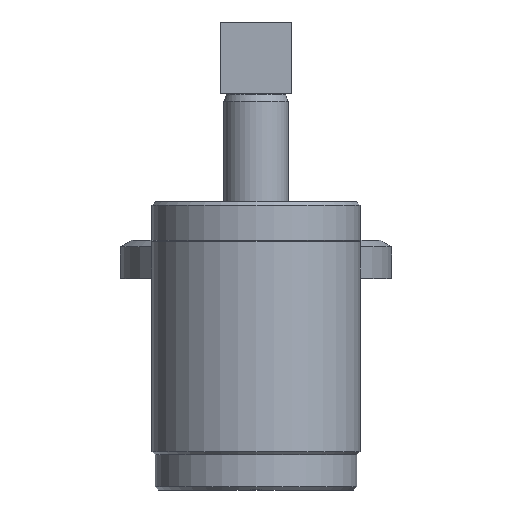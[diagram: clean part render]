
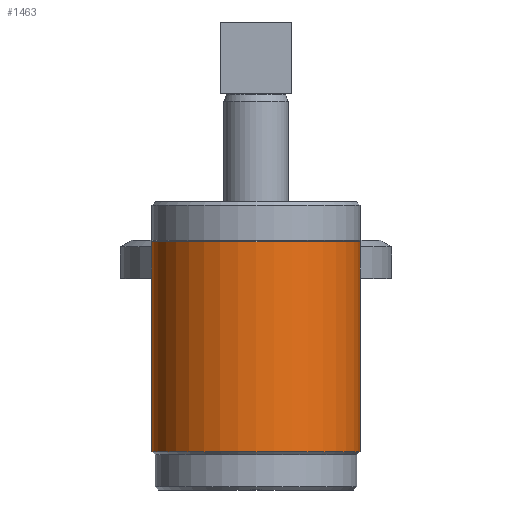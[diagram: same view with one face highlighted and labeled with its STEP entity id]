
A CAD part, left-side view. The second image highlights one B-rep face of the part: STEP entity #1463.
In plain terms, the highlighted cylindrical face has radius 32.5 mm (diameter 65 mm), a full revolution.
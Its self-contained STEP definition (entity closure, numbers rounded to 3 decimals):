
#66=CYLINDRICAL_SURFACE('',#2017,32.5);
#340=CIRCLE('',#1994,32.5);
#351=CIRCLE('',#2016,32.5);
#613=ORIENTED_EDGE('',*,*,#834,.T.);
#614=ORIENTED_EDGE('',*,*,#845,.T.);
#834=EDGE_CURVE('',#978,#978,#340,.T.);
#845=EDGE_CURVE('',#989,#989,#351,.T.);
#978=VERTEX_POINT('',#2943);
#989=VERTEX_POINT('',#2976);
#1185=EDGE_LOOP('',(#613));
#1186=EDGE_LOOP('',(#614));
#1345=FACE_BOUND('',#1185,.T.);
#1346=FACE_BOUND('',#1186,.T.);
#1463=ADVANCED_FACE('',(#1345,#1346),#66,.T.);
#1994=AXIS2_PLACEMENT_3D('',#2942,#2335,#2336);
#2016=AXIS2_PLACEMENT_3D('',#2975,#2379,#2380);
#2017=AXIS2_PLACEMENT_3D('',#2977,#2381,#2382);
#2335=DIRECTION('',(0.,0.,-1.));
#2336=DIRECTION('',(-1.,0.,0.));
#2379=DIRECTION('',(0.,0.,1.));
#2380=DIRECTION('',(1.,0.,0.));
#2381=DIRECTION('',(0.,0.,1.));
#2382=DIRECTION('',(1.,0.,0.));
#2942=CARTESIAN_POINT('',(0.,0.,77.5));
#2943=CARTESIAN_POINT('',(-32.5,0.,77.5));
#2975=CARTESIAN_POINT('',(0.,0.,12.));
#2976=CARTESIAN_POINT('',(32.5,0.,12.));
#2977=CARTESIAN_POINT('',(0.,0.,162.62));
